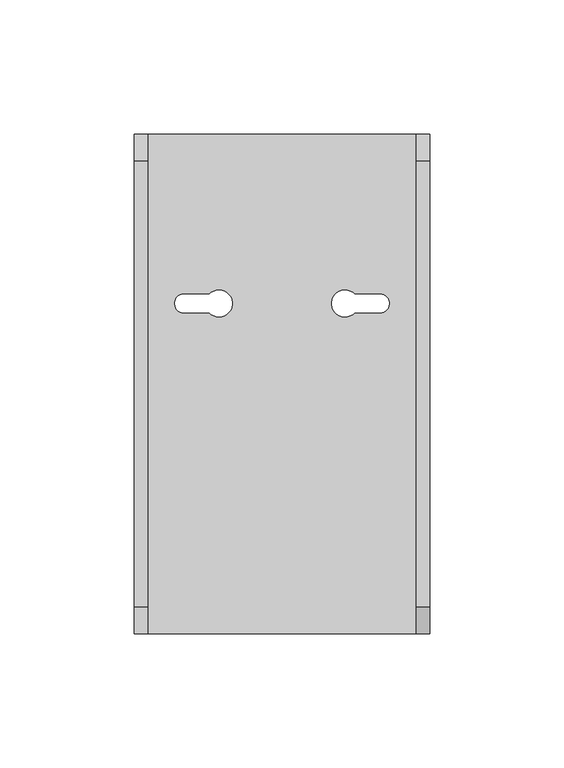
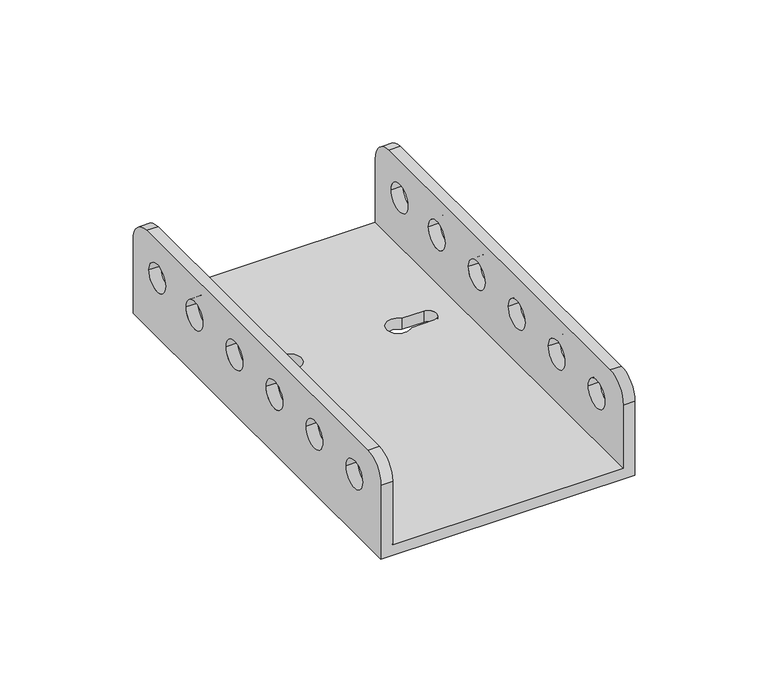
"""IFC4 building model written with IfcOpenShell, lengths in millimetres: proxy geometry, d&b M-Series Flying Adapter 03 : Flying Adapter 03."""

from ifc_helpers import new_model, si_unit, frame, origin, place, context, project, spatial, polyline, circle_curve, source, transform, mapped, element, save
from ifc_brep_helpers import plane_surface, cylinder_surface, revolved_surface, advanced_brep


def communication_devices_d8b0c4f8(model_context):
    return source(origin(), model_context, "Body", "AdvancedBrep", [
        advanced_brep(
        [(50.0, -113.0, 44.0), (50.0, 53.0, 44.0), (50.0, 63.0, 34.0), (50.0, 63.0, 5.0), (50.0, -123.0, 5.0), (50.0, -123.0, 34.0), (50.0, -66.75, 27.0), (50.0, -79.25, 27.0), (50.0, -36.75, 27.0), (50.0, -49.25, 27.0), (50.0, -6.75, 27.0), (50.0, -19.25, 27.0), (50.0, 23.25, 27.0), (50.0, 10.75, 27.0), (50.0, 51.25, 27.0), (50.0, 38.75, 27.0), (50.0, -96.75, 27.0), (50.0, -109.25, 27.0), (55.0, -113.0, 44.0), (55.0, -123.0, 34.0), (55.0, -123.0, 0.0), (55.0, 63.0, 0.0), (55.0, 63.0, 34.0), (55.0, 53.0, 44.0), (55.0, -66.75, 27.0), (55.0, -79.25, 27.0), (55.0, -36.75, 27.0), (55.0, -49.25, 27.0), (55.0, -6.75, 27.0), (55.0, -19.25, 27.0), (55.0, 23.25, 27.0), (55.0, 10.75, 27.0), (55.0, 51.25, 27.0), (55.0, 38.75, 27.0), (55.0, -96.75, 27.0), (55.0, -109.25, 27.0), (-50.0, -113.0, 44.0), (-50.0, -123.0, 34.0), (-50.0, -123.0, 5.0), (-50.0, 63.0, 5.0), (-50.0, 63.0, 34.0), (-50.0, 53.0, 44.0), (-50.0, -66.75, 27.0), (-50.0, -79.25, 27.0), (-50.0, -36.75, 27.0), (-50.0, -49.25, 27.0), (-50.0, -6.75, 27.0), (-50.0, -19.25, 27.0), (-50.0, 23.25, 27.0), (-50.0, 10.75, 27.0), (-50.0, 51.25, 27.0), (-50.0, 38.75, 27.0), (-50.0, -96.75, 27.0), (-50.0, -109.25, 27.0), (-55.0, -113.0, 44.0), (-55.0, 53.0, 44.0), (-55.0, 63.0, 34.0), (-55.0, 63.0, 0.0), (-55.0, -123.0, 0.0), (-55.0, -123.0, 34.0), (-55.0, -66.75, 27.0), (-55.0, -79.25, 27.0), (-55.0, -36.75, 27.0), (-55.0, -49.25, 27.0), (-55.0, -6.75, 27.0), (-55.0, -19.25, 27.0), (-55.0, 23.25, 27.0), (-55.0, 10.75, 27.0), (-55.0, 51.25, 27.0), (-55.0, 38.75, 27.0), (-55.0, -96.75, 27.0), (-55.0, -109.25, 27.0), (-36.5, -3.5, 5.0), (-36.5, 3.5, 5.0), (-27.0707142, 3.5, 5.0), (-27.0707142, -3.5, 5.0), (36.5, -3.5, 5.0), (27.0707142, -3.5, 5.0), (27.0707142, 3.5, 5.0), (36.5, 3.5, 5.0), (-36.5, -3.5, 0.0), (-27.0707142, -3.5, 0.0), (-27.0707142, 3.5, 0.0), (-36.5, 3.5, 0.0), (36.5, -3.5, 0.0), (36.5, 3.5, 0.0), (27.0707142, 3.5, 0.0), (27.0707142, -3.5, 0.0)],
        [
            (0, 1),
            (1, 2, circle_curve(frame((50.0, 53.0, 34.0), z_axis=(-1.0, 0.0, 0.0), x_axis=(0.0, -1.0, 0.0)), 10.0)),
            (2, 3),
            (3, 4),
            (4, 5),
            (5, 0, circle_curve(frame((50.0, -113.0, 34.0), z_axis=(-1.0, 0.0, 0.0), x_axis=(0.0, -1.0, 0.0)), 10.0)),
            (6, 7, circle_curve(frame((50.0, -73.0, 27.0), z_axis=(1.0, 0.0, 0.0), x_axis=(0.0, -1.0, 0.0)), 6.25)),
            (7, 6, circle_curve(frame((50.0, -73.0, 27.0), z_axis=(1.0, 0.0, 0.0), x_axis=(0.0, -1.0, 0.0)), 6.25)),
            (8, 9, circle_curve(frame((50.0, -43.0, 27.0), z_axis=(1.0, 0.0, 0.0), x_axis=(0.0, -1.0, 0.0)), 6.25)),
            (9, 8, circle_curve(frame((50.0, -43.0, 27.0), z_axis=(1.0, 0.0, 0.0), x_axis=(0.0, -1.0, 0.0)), 6.25)),
            (10, 11, circle_curve(frame((50.0, -13.0, 27.0), z_axis=(1.0, 0.0, 0.0), x_axis=(0.0, -1.0, 0.0)), 6.25)),
            (11, 10, circle_curve(frame((50.0, -13.0, 27.0), z_axis=(1.0, 0.0, 0.0), x_axis=(0.0, -1.0, 0.0)), 6.25)),
            (12, 13, circle_curve(frame((50.0, 17.0, 27.0), z_axis=(1.0, 0.0, 0.0), x_axis=(0.0, -1.0, 0.0)), 6.25)),
            (13, 12, circle_curve(frame((50.0, 17.0, 27.0), z_axis=(1.0, 0.0, 0.0), x_axis=(0.0, -1.0, 0.0)), 6.25)),
            (14, 15, circle_curve(frame((50.0, 45.0, 27.0), z_axis=(1.0, 0.0, 0.0), x_axis=(0.0, -1.0, 0.0)), 6.25)),
            (15, 14, circle_curve(frame((50.0, 45.0, 27.0), z_axis=(1.0, 0.0, 0.0), x_axis=(0.0, -1.0, 0.0)), 6.25)),
            (16, 17, circle_curve(frame((50.0, -103.0, 27.0), z_axis=(1.0, 0.0, 0.0), x_axis=(0.0, -1.0, 0.0)), 6.25)),
            (17, 16, circle_curve(frame((50.0, -103.0, 27.0), z_axis=(1.0, 0.0, 0.0), x_axis=(0.0, -1.0, 0.0)), 6.25)),
            (18, 19, circle_curve(frame((55.0, -113.0, 34.0), z_axis=(1.0, 0.0, 0.0), x_axis=(0.0, -1.0, 0.0)), 10.0)),
            (19, 20),
            (20, 21),
            (21, 22),
            (22, 23, circle_curve(frame((55.0, 53.0, 34.0), z_axis=(1.0, 0.0, 0.0), x_axis=(0.0, -1.0, 0.0)), 10.0)),
            (23, 18),
            (24, 25, circle_curve(frame((55.0, -73.0, 27.0), z_axis=(-1.0, 0.0, 0.0), x_axis=(0.0, -1.0, 0.0)), 6.25)),
            (25, 24, circle_curve(frame((55.0, -73.0, 27.0), z_axis=(-1.0, 0.0, 0.0), x_axis=(0.0, -1.0, 0.0)), 6.25)),
            (26, 27, circle_curve(frame((55.0, -43.0, 27.0), z_axis=(-1.0, 0.0, 0.0), x_axis=(0.0, -1.0, 0.0)), 6.25)),
            (27, 26, circle_curve(frame((55.0, -43.0, 27.0), z_axis=(-1.0, 0.0, 0.0), x_axis=(0.0, -1.0, 0.0)), 6.25)),
            (28, 29, circle_curve(frame((55.0, -13.0, 27.0), z_axis=(-1.0, 0.0, 0.0), x_axis=(0.0, -1.0, 0.0)), 6.25)),
            (29, 28, circle_curve(frame((55.0, -13.0, 27.0), z_axis=(-1.0, 0.0, 0.0), x_axis=(0.0, -1.0, 0.0)), 6.25)),
            (30, 31, circle_curve(frame((55.0, 17.0, 27.0), z_axis=(-1.0, 0.0, 0.0), x_axis=(0.0, -1.0, 0.0)), 6.25)),
            (31, 30, circle_curve(frame((55.0, 17.0, 27.0), z_axis=(-1.0, 0.0, 0.0), x_axis=(0.0, -1.0, 0.0)), 6.25)),
            (32, 33, circle_curve(frame((55.0, 45.0, 27.0), z_axis=(-1.0, 0.0, 0.0), x_axis=(0.0, -1.0, 0.0)), 6.25)),
            (33, 32, circle_curve(frame((55.0, 45.0, 27.0), z_axis=(-1.0, 0.0, 0.0), x_axis=(0.0, -1.0, 0.0)), 6.25)),
            (34, 35, circle_curve(frame((55.0, -103.0, 27.0), z_axis=(-1.0, 0.0, 0.0), x_axis=(0.0, -1.0, 0.0)), 6.25)),
            (35, 34, circle_curve(frame((55.0, -103.0, 27.0), z_axis=(-1.0, 0.0, 0.0), x_axis=(0.0, -1.0, 0.0)), 6.25)),
            (36, 37, circle_curve(frame((-50.0, -113.0, 34.0), z_axis=(1.0, 0.0, 0.0), x_axis=(0.0, -1.0, 0.0)), 10.0)),
            (37, 38),
            (38, 39),
            (39, 40),
            (40, 41, circle_curve(frame((-50.0, 53.0, 34.0), z_axis=(1.0, 0.0, 0.0), x_axis=(0.0, -1.0, 0.0)), 10.0)),
            (41, 36),
            (42, 43, circle_curve(frame((-50.0, -73.0, 27.0), z_axis=(-1.0, 0.0, 0.0), x_axis=(0.0, -1.0, 0.0)), 6.25)),
            (43, 42, circle_curve(frame((-50.0, -73.0, 27.0), z_axis=(-1.0, 0.0, 0.0), x_axis=(0.0, -1.0, 0.0)), 6.25)),
            (44, 45, circle_curve(frame((-50.0, -43.0, 27.0), z_axis=(-1.0, 0.0, 0.0), x_axis=(0.0, -1.0, 0.0)), 6.25)),
            (45, 44, circle_curve(frame((-50.0, -43.0, 27.0), z_axis=(-1.0, 0.0, 0.0), x_axis=(0.0, -1.0, 0.0)), 6.25)),
            (46, 47, circle_curve(frame((-50.0, -13.0, 27.0), z_axis=(-1.0, 0.0, 0.0), x_axis=(0.0, -1.0, 0.0)), 6.25)),
            (47, 46, circle_curve(frame((-50.0, -13.0, 27.0), z_axis=(-1.0, 0.0, 0.0), x_axis=(0.0, -1.0, 0.0)), 6.25)),
            (48, 49, circle_curve(frame((-50.0, 17.0, 27.0), z_axis=(-1.0, 0.0, 0.0), x_axis=(0.0, -1.0, 0.0)), 6.25)),
            (49, 48, circle_curve(frame((-50.0, 17.0, 27.0), z_axis=(-1.0, 0.0, 0.0), x_axis=(0.0, -1.0, 0.0)), 6.25)),
            (50, 51, circle_curve(frame((-50.0, 45.0, 27.0), z_axis=(-1.0, 0.0, 0.0), x_axis=(0.0, -1.0, 0.0)), 6.25)),
            (51, 50, circle_curve(frame((-50.0, 45.0, 27.0), z_axis=(-1.0, 0.0, 0.0), x_axis=(0.0, -1.0, 0.0)), 6.25)),
            (52, 53, circle_curve(frame((-50.0, -103.0, 27.0), z_axis=(-1.0, 0.0, 0.0), x_axis=(0.0, -1.0, 0.0)), 6.25)),
            (53, 52, circle_curve(frame((-50.0, -103.0, 27.0), z_axis=(-1.0, 0.0, 0.0), x_axis=(0.0, -1.0, 0.0)), 6.25)),
            (54, 55),
            (55, 56, circle_curve(frame((-55.0, 53.0, 34.0), z_axis=(-1.0, 0.0, 0.0), x_axis=(0.0, -1.0, 0.0)), 10.0)),
            (56, 57),
            (57, 58),
            (58, 59),
            (59, 54, circle_curve(frame((-55.0, -113.0, 34.0), z_axis=(-1.0, 0.0, 0.0), x_axis=(0.0, -1.0, 0.0)), 10.0)),
            (60, 61, circle_curve(frame((-55.0, -73.0, 27.0), z_axis=(1.0, 0.0, 0.0), x_axis=(0.0, -1.0, 0.0)), 6.25)),
            (61, 60, circle_curve(frame((-55.0, -73.0, 27.0), z_axis=(1.0, 0.0, 0.0), x_axis=(0.0, -1.0, 0.0)), 6.25)),
            (62, 63, circle_curve(frame((-55.0, -43.0, 27.0), z_axis=(1.0, 0.0, 0.0), x_axis=(0.0, -1.0, 0.0)), 6.25)),
            (63, 62, circle_curve(frame((-55.0, -43.0, 27.0), z_axis=(1.0, 0.0, 0.0), x_axis=(0.0, -1.0, 0.0)), 6.25)),
            (64, 65, circle_curve(frame((-55.0, -13.0, 27.0), z_axis=(1.0, 0.0, 0.0), x_axis=(0.0, -1.0, 0.0)), 6.25)),
            (65, 64, circle_curve(frame((-55.0, -13.0, 27.0), z_axis=(1.0, 0.0, 0.0), x_axis=(0.0, -1.0, 0.0)), 6.25)),
            (66, 67, circle_curve(frame((-55.0, 17.0, 27.0), z_axis=(1.0, 0.0, 0.0), x_axis=(0.0, -1.0, 0.0)), 6.25)),
            (67, 66, circle_curve(frame((-55.0, 17.0, 27.0), z_axis=(1.0, 0.0, 0.0), x_axis=(0.0, -1.0, 0.0)), 6.25)),
            (68, 69, circle_curve(frame((-55.0, 45.0, 27.0), z_axis=(1.0, 0.0, 0.0), x_axis=(0.0, -1.0, 0.0)), 6.25)),
            (69, 68, circle_curve(frame((-55.0, 45.0, 27.0), z_axis=(1.0, 0.0, 0.0), x_axis=(0.0, -1.0, 0.0)), 6.25)),
            (70, 71, circle_curve(frame((-55.0, -103.0, 27.0), z_axis=(1.0, 0.0, 0.0), x_axis=(0.0, -1.0, 0.0)), 6.25)),
            (71, 70, circle_curve(frame((-55.0, -103.0, 27.0), z_axis=(1.0, 0.0, 0.0), x_axis=(0.0, -1.0, 0.0)), 6.25)),
            (41, 55),
            (54, 36),
            (42, 60),
            (61, 43),
            (44, 62),
            (63, 45),
            (46, 64),
            (65, 47),
            (48, 66),
            (67, 49),
            (50, 68),
            (69, 51),
            (52, 70),
            (71, 53),
            (59, 37),
            (40, 56),
            (38, 4),
            (3, 39),
            (72, 73, circle_curve(frame((-36.5, 0.0, 5.0), z_axis=(0.0, 0.0, -1.0), x_axis=(1.0, 0.0, 0.0)), 3.5)),
            (73, 74),
            (74, 75, circle_curve(frame((-23.5, 0.0, 5.0), z_axis=(0.0, 0.0, -1.0), x_axis=(1.0, 0.0, 0.0)), 5.0)),
            (75, 72),
            (76, 77),
            (77, 78, circle_curve(frame((23.5, 0.0, 5.0), z_axis=(0.0, 0.0, -1.0), x_axis=(-1.0, 0.0, 0.0)), 5.0)),
            (78, 79),
            (79, 76, circle_curve(frame((36.5, 0.0, 5.0), z_axis=(0.0, 0.0, -1.0), x_axis=(-1.0, 0.0, 0.0)), 3.5)),
            (57, 21),
            (20, 58),
            (80, 81),
            (81, 82, circle_curve(frame((-23.5, 0.0, 0.0), z_axis=(0.0, 0.0, 1.0), x_axis=(1.0, 0.0, 0.0)), 5.0)),
            (82, 83),
            (83, 80, circle_curve(frame((-36.5, 0.0, 0.0), z_axis=(0.0, 0.0, 1.0), x_axis=(1.0, 0.0, 0.0)), 3.5)),
            (84, 85, circle_curve(frame((36.5, 0.0, 0.0), z_axis=(0.0, 0.0, 1.0), x_axis=(-1.0, 0.0, 0.0)), 3.5)),
            (85, 86),
            (86, 87, circle_curve(frame((23.5, 0.0, 0.0), z_axis=(0.0, 0.0, 1.0), x_axis=(-1.0, 0.0, 0.0)), 5.0)),
            (87, 84),
            (72, 80),
            (83, 73),
            (82, 74),
            (81, 75),
            (76, 84),
            (87, 77),
            (86, 78),
            (85, 79),
            (0, 18),
            (23, 1),
            (22, 2),
            (19, 5),
            (6, 24),
            (25, 7),
            (8, 26),
            (27, 9),
            (10, 28),
            (29, 11),
            (12, 30),
            (31, 13),
            (14, 32),
            (33, 15),
            (16, 34),
            (35, 17),
        ],
        [
            plane_surface(frame((50.0, 0.0010324, 44.0), z_axis=(-1.0, 0.0, 0.0), x_axis=(0.0, 1.0, 0.0))),
            plane_surface(frame((55.0, 0.0010324, 44.0), z_axis=(1.0, 0.0, 0.0), x_axis=(0.0, -1.0, 0.0))),
            plane_surface(frame((-50.0, -123.0, 34.0), z_axis=(1.0, 0.0, 0.0), x_axis=(0.0, 0.0, -1.0))),
            plane_surface(frame((-55.0, -123.0, 34.0), z_axis=(-1.0, 0.0, 0.0), x_axis=(0.0, 0.0, 1.0))),
            plane_surface(frame((-50.0, 53.0, 44.0), z_axis=(0.0, 0.0, 1.0), x_axis=(-1.0, 0.0, 0.0))),
            revolved_surface(polyline([(-55.0, -79.25, 27.0), (-50.0, -79.25, 27.0)]), (-52.5, -73.0, 27.0), (-1.0, 0.0, 0.0)),
            revolved_surface(polyline([(-55.0, -49.25, 27.0), (-50.0, -49.25, 27.0)]), (-52.5, -43.0, 27.0), (-1.0, 0.0, 0.0)),
            revolved_surface(polyline([(-55.0, -19.25, 27.0), (-50.0, -19.25, 27.0)]), (-52.5, -13.0, 27.0), (-1.0, 0.0, 0.0)),
            revolved_surface(polyline([(-55.0, 10.75, 27.0), (-50.0, 10.75, 27.0)]), (-52.5, 17.0, 27.0), (-1.0, 0.0, 0.0)),
            revolved_surface(polyline([(-55.0, 38.75, 27.0), (-50.0, 38.75, 27.0)]), (-52.5, 45.0, 27.0), (-1.0, 0.0, 0.0)),
            revolved_surface(polyline([(-55.0, -109.25, 27.0), (-50.0, -109.25, 27.0)]), (-52.5, -103.0, 27.0), (-1.0, 0.0, 0.0)),
            cylinder_surface(frame((-55.0, -113.0, 34.0), z_axis=(1.0, 0.0, 0.0), x_axis=(0.0, -1.0, 0.0)), 10.0),
            cylinder_surface(frame((-55.0, 53.0, 34.0), z_axis=(1.0, 0.0, 0.0), x_axis=(0.0, -1.0, 0.0)), 10.0),
            plane_surface(frame((-33.0, 0.0, 5.0), z_axis=(0.0, 0.0, 1.0), x_axis=(0.0, -1.0, 0.0))),
            plane_surface(frame((-33.0, 0.0, 0.0), z_axis=(0.0, 0.0, -1.0), x_axis=(0.0, 1.0, 0.0))),
            revolved_surface(polyline([(-33.0, 0.0, 0.0), (-33.0, 0.0, 5.0)]), (-36.5, 0.0, 0.0), (0.0, 0.0, -1.0)),
            plane_surface(frame((-36.5, 3.5, 5.0), z_axis=(0.0, -1.0, 0.0), x_axis=(0.0, 0.0, -1.0))),
            revolved_surface(polyline([(-18.5, 0.0, 0.0), (-18.5, 0.0, 5.0)]), (-23.5, 0.0, 0.0), (0.0, 0.0, -1.0)),
            plane_surface(frame((-27.0707142, -3.5, 5.0), z_axis=(0.0, 1.0, 0.0), x_axis=(0.0, 0.0, -1.0))),
            plane_surface(frame((36.5, -3.5, 5.0), z_axis=(0.0, 1.0, 0.0), x_axis=(0.0, 0.0, -1.0))),
            revolved_surface(polyline([(18.5, 0.0, 0.0), (18.5, 0.0, 5.0)]), (23.5, 0.0, 0.0), (0.0, 0.0, -1.0)),
            plane_surface(frame((27.0707142, 3.5, 5.0), z_axis=(0.0, -1.0, 0.0), x_axis=(0.0, 0.0, -1.0))),
            revolved_surface(polyline([(33.0, 0.0, 0.0), (33.0, 0.0, 5.0)]), (36.5, 0.0, 0.0), (0.0, 0.0, -1.0)),
            plane_surface(frame((50.0, -113.0, 44.0), z_axis=(0.0, 0.0, 1.0), x_axis=(1.0, 0.0, 0.0))),
            cylinder_surface(frame((55.0, 53.0, 34.0), z_axis=(-1.0, 0.0, 0.0), x_axis=(0.0, -1.0, 0.0)), 10.0),
            plane_surface(frame((50.0, 63.0, 34.0), z_axis=(0.0, 1.0, 0.0), x_axis=(1.0, 0.0, 0.0))),
            plane_surface(frame((50.0, -123.0, 5.0), z_axis=(0.0, -1.0, 0.0), x_axis=(1.0, 0.0, 0.0))),
            cylinder_surface(frame((55.0, -113.0, 34.0), z_axis=(-1.0, 0.0, 0.0), x_axis=(0.0, -1.0, 0.0)), 10.0),
            revolved_surface(polyline([(55.0, -79.25, 27.0), (50.0, -79.25, 27.0)]), (52.5, -73.0, 27.0), (1.0, 0.0, 0.0)),
            revolved_surface(polyline([(55.0, -49.25, 27.0), (50.0, -49.25, 27.0)]), (52.5, -43.0, 27.0), (1.0, 0.0, 0.0)),
            revolved_surface(polyline([(55.0, -19.25, 27.0), (50.0, -19.25, 27.0)]), (52.5, -13.0, 27.0), (1.0, 0.0, 0.0)),
            revolved_surface(polyline([(55.0, 10.75, 27.0), (50.0, 10.75, 27.0)]), (52.5, 17.0, 27.0), (1.0, 0.0, 0.0)),
            revolved_surface(polyline([(55.0, 38.75, 27.0), (50.0, 38.75, 27.0)]), (52.5, 45.0, 27.0), (1.0, 0.0, 0.0)),
            revolved_surface(polyline([(55.0, -109.25, 27.0), (50.0, -109.25, 27.0)]), (52.5, -103.0, 27.0), (1.0, 0.0, 0.0)),
        ],
        [
            (0, [[1, 2, 3, 4, 5, 6], [7, 8], [9, 10], [11, 12], [13, 14], [15, 16], [17, 18]]),
            (1, [[19, 20, 21, 22, 23, 24], [25, 26], [27, 28], [29, 30], [31, 32], [33, 34], [35, 36]]),
            (2, [[37, 38, 39, 40, 41, 42], [43, 44], [45, 46], [47, 48], [49, 50], [51, 52], [53, 54]]),
            (3, [[55, 56, 57, 58, 59, 60], [61, 62], [63, 64], [65, 66], [67, 68], [69, 70], [71, 72]]),
            (4, [[-42, 73, -55, 74]]),
            (5, [[-43, 75, -62, 76]]),
            (5, [[-44, -76, -61, -75]]),
            (6, [[-45, 77, -64, 78]]),
            (6, [[-46, -78, -63, -77]]),
            (7, [[-47, 79, -66, 80]]),
            (7, [[-48, -80, -65, -79]]),
            (8, [[-49, 81, -68, 82]]),
            (8, [[-50, -82, -67, -81]]),
            (9, [[-51, 83, -70, 84]]),
            (9, [[-52, -84, -69, -83]]),
            (10, [[-53, 85, -72, 86]]),
            (10, [[-54, -86, -71, -85]]),
            (11, [[-37, -74, -60, 87]]),
            (12, [[-41, 88, -56, -73]]),
            (13, [[89, -4, 90, -39], [91, 92, 93, 94], [95, 96, 97, 98]]),
            (14, [[99, -21, 100, -58], [101, 102, 103, 104], [105, 106, 107, 108]]),
            (15, [[-91, 109, -104, 110]]),
            (16, [[-92, -110, -103, 111]]),
            (17, [[-93, -111, -102, 112]]),
            (18, [[-94, -112, -101, -109]]),
            (19, [[-95, 113, -108, 114]]),
            (20, [[-96, -114, -107, 115]]),
            (21, [[-97, -115, -106, 116]]),
            (22, [[-98, -116, -105, -113]]),
            (23, [[-1, 117, -24, 118]]),
            (24, [[-2, -118, -23, 119]]),
            (25, [[-3, -119, -22, -99, -57, -88, -40, -90]]),
            (26, [[-5, -89, -38, -87, -59, -100, -20, 120]]),
            (27, [[-6, -120, -19, -117]]),
            (28, [[-7, 121, -26, 122]]),
            (28, [[-8, -122, -25, -121]]),
            (29, [[-9, 123, -28, 124]]),
            (29, [[-10, -124, -27, -123]]),
            (30, [[-11, 125, -30, 126]]),
            (30, [[-12, -126, -29, -125]]),
            (31, [[-13, 127, -32, 128]]),
            (31, [[-14, -128, -31, -127]]),
            (32, [[-15, 129, -34, 130]]),
            (32, [[-16, -130, -33, -129]]),
            (33, [[-17, 131, -36, 132]]),
            (33, [[-18, -132, -35, -131]]),
        ],
    ),
    ])


if __name__ == "__main__":
    model = new_model("IFC4")
    model_context = context("Model", 3, world=origin())
    ifc_project = project(units=[si_unit("LENGTHUNIT", "METRE", prefix="MILLI")], contexts=[model_context])
    site = spatial("IfcSite", under=ifc_project)
    building = spatial("IfcBuilding", under=site)
    placement = place(None, origin())
    communication_devices_shape = communication_devices_d8b0c4f8(model_context)
    element("IfcBuildingElementProxy", 1, Name="d&b M-Series Flying Adapter 03 : Flying Adapter 03", ObjectType="d&b M-Series Flying Adapter 03 : Flying Adapter 03", at=placement, inside=building, context=model_context, shape_type="MappedRepresentation", body=[
        mapped(communication_devices_shape, transform((0.0, 0.0, 0.0), x_axis=(1.0, 0.0, 0.0), y_axis=(0.0, 1.0, 0.0), z_axis=(0.0, 0.0, 1.0))),
    ])
    save(model, "model.ifc")
